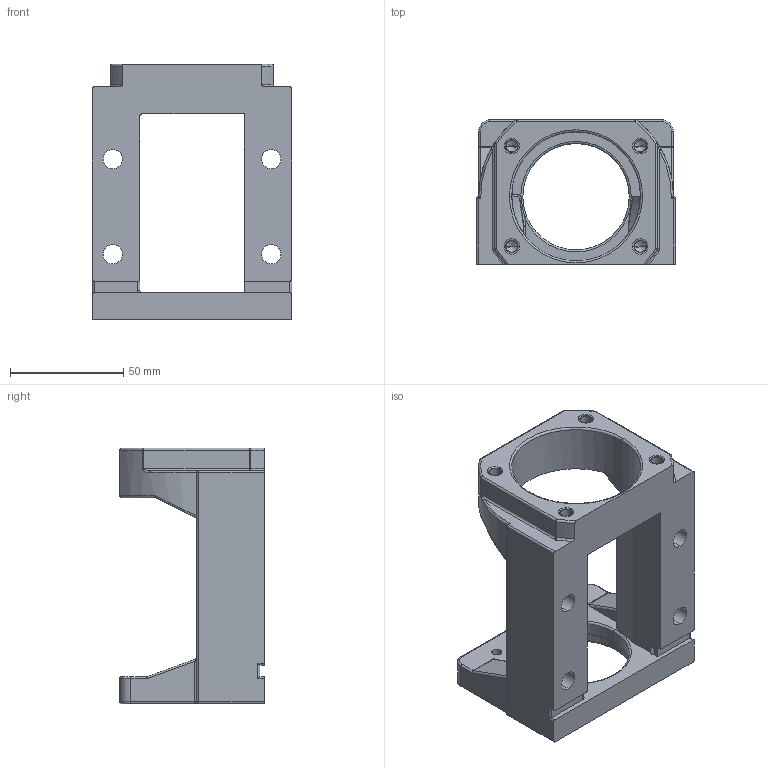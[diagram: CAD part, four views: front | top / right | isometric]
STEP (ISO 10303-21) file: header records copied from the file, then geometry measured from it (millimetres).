
FILE_DESCRIPTION (( 'STEP AP203' ), '1' );
FILE_NAME ('傳動座MBL20-D.STEP', '2017-12-28T06:17:04', ( '' ), ( '' ), 'SwSTEP 2.0', 'SolidWorks 2017', '' );
FILE_SCHEMA (( 'CONFIG_CONTROL_DESIGN' ));
Length unit declared in the file: millimetre
Products named in the file (1): 傳動座MBL20-D
Bounding box: 88 x 64 x 113 mm (x, y, z)
Volume: 186398.9 mm3; surface area: 45807.1 mm2
Topology: 1 solids, 1 shells, 285 faces, 693 edges, 392 vertices
Faces by surface type: cylinder 110, torus 60, plane 40, bspline 31, cone 30, sphere 14
Entity records: 9366 total; most frequent: CARTESIAN_POINT 2833, DIRECTION 1415, ORIENTED_EDGE 1344, EDGE_CURVE 672, AXIS2_PLACEMENT_3D 587, VERTEX_POINT 392, CIRCLE 332, EDGE_LOOP 310
